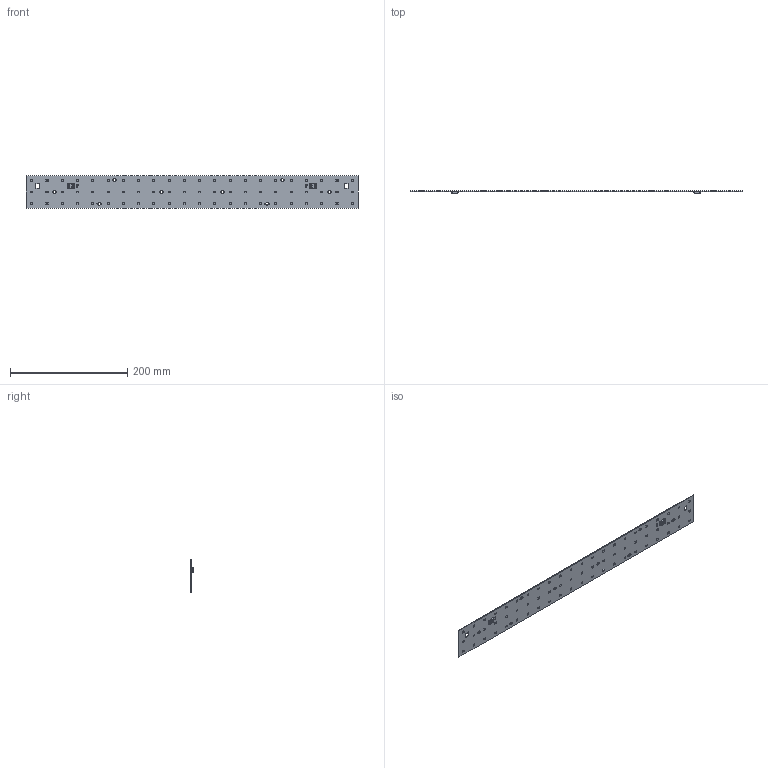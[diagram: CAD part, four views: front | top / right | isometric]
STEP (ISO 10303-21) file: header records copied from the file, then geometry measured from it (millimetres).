
FILE_DESCRIPTION(/* description */ ('Unknown'),/* implementation_level */ '2;1');
FILE_NAME(/* name */ 'LinLED 566x55mm 2200lm sh-000 2026-03-05',/* time_stamp */ '2026-03-05T08:13:54+01:00',/* author */ ('Unknown'),/* organization */ ('Unknown'),/* preprocessor_version */ 'ST-DEVELOPER v18.102',/* originating_system */ 'Solid Edge',/* authorisation */ 'Unknown');
FILE_SCHEMA (('AUTOMOTIVE_DESIGN {1 0 10303 214 3 1 1}'));
Products named in the file (1): LinLED 566x55mm 2200lm sh-000 2026-03-05
Bounding box: 565.6 x 5.05 x 55 mm (x, y, z)
Volume: 50257.7 mm3; surface area: 65324.5 mm2
Topology: 1 solids, 1 shells, 2024 faces, 5308 edges, 3428 vertices
Faces by surface type: plane 1480, cylinder 286, torus 104, cone 88, bspline 46, sphere 20
Entity records: 77140 total; most frequent: CARTESIAN_POINT 14707, ORIENTED_EDGE 10540, DIRECTION 8842, EDGE_CURVE 5270, LINE 3968, VECTOR 3968, VERTEX_POINT 3418, AXIS2_PLACEMENT_3D 2437
